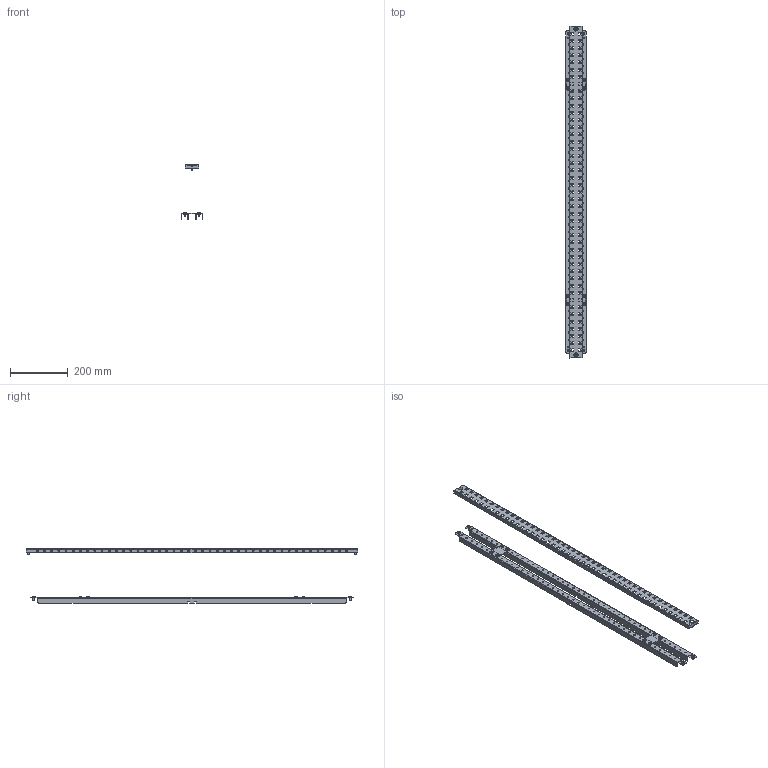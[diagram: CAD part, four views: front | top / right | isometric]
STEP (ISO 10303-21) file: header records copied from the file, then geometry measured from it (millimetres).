
FILE_DESCRIPTION (( 'STEP AP203' ), '1' );
FILE_NAME ('R6DK124620 ãë.250.step', '2025-07-11T08:20:33', ( '' ), ( '' ), 'SwSTEP 2.0', 'SolidWorks 2022', '' );
FILE_SCHEMA (( 'CONFIG_CONTROL_DESIGN' ));
Length unit declared in the file: millimetre
Products named in the file (7): M5x12 DIN 7500 C Torx Zinc_stright; M6x10 DIN 912 HX cl.8,8 Zinc_straight; R6DK124620 гл.250; RB.3015.00.00.0_Default ; RB.3325.00.00.0_-02; RB.3324.00.00.0_-01; 6 DIN 6798 A Zinc
Assembly tree (25 placements, depth 2):
  R6DK124620 гл.250
    RB.3325.00.00.0_-02
    RB.3324.00.00.0_-01  x2
    RB.3015.00.00.0_Default   x2
    M5x12 DIN 7500 C Torx Zinc_stright  x16
    6 DIN 6798 A Zinc  x2
    M6x10 DIN 912 HX cl.8,8 Zinc_straight  x2
Bounding box: 75 x 1153.2 x 190.13 mm (x, y, z)
Volume: 315873.4 mm3; surface area: 440386 mm2
Topology: 25 solids, 25 shells, 1212 faces, 3216 edges, 2020 vertices
Faces by surface type: plane 760, cylinder 300, bspline 64, torus 36, cone 36, sphere 16
Full cylindrical faces by diameter (mm): 4.2 x84, 5 x16, 6 x98, 6.4 x2, 7 x2, 9.5 x16, 10 x2, 11 x2
Entity records: 26119 total; most frequent: CARTESIAN_POINT 4907, ORIENTED_EDGE 3914, DIRECTION 3846, EDGE_CURVE 1957, LINE 1478, VECTOR 1478, EDGE_LOOP 1368, VERTEX_POINT 1361
